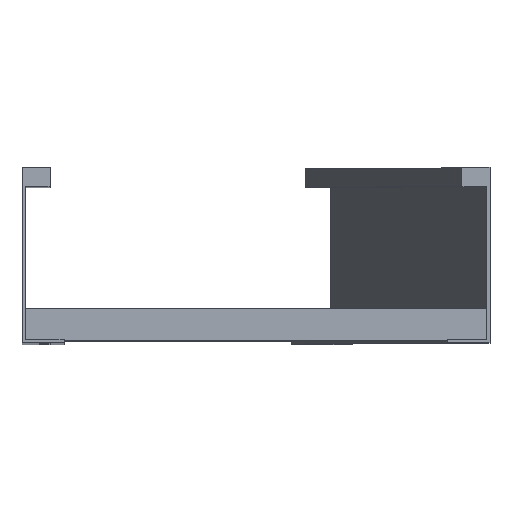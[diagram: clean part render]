
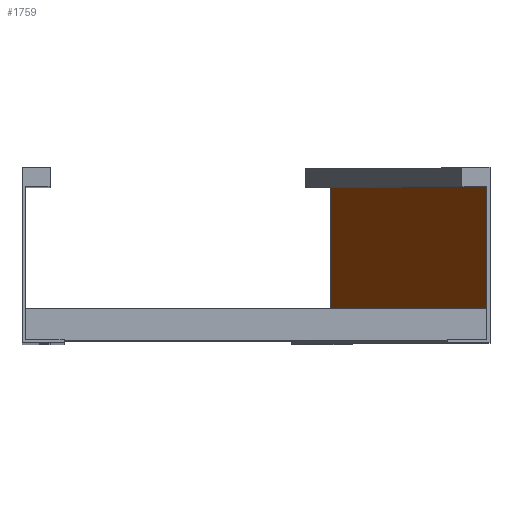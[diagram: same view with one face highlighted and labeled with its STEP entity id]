
A CAD part, top view. The second image highlights one B-rep face of the part: STEP entity #1759.
In plain terms, the highlighted planar face has unit normal (-0.923, 0, 0.385).
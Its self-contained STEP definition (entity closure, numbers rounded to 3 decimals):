
#11 = VERTEX_POINT ( 'NONE', #382 ) ;
#30 = EDGE_CURVE ( 'NONE', #848, #1193, #2414, .T. ) ;
#149 = VECTOR ( 'NONE', #3064, 1000. ) ;
#172 = CARTESIAN_POINT ( 'NONE',  ( -2., 2., -179.6 ) ) ;
#293 = ORIENTED_EDGE ( 'NONE', *, *, #1525, .T. ) ;
#329 = ORIENTED_EDGE ( 'NONE', *, *, #30, .F. ) ;
#351 = CARTESIAN_POINT ( 'NONE',  ( -102., 2., -419.6 ) ) ;
#382 = CARTESIAN_POINT ( 'NONE',  ( -102., 100.5, -419.6 ) ) ;
#501 = LINE ( 'NONE', #2526, #2387 ) ;
#575 = VECTOR ( 'NONE', #1517, 1000. ) ;
#595 = ORIENTED_EDGE ( 'NONE', *, *, #3122, .F. ) ;
#719 = DIRECTION ( 'NONE',  ( 0.923, 0., -0.385 ) ) ;
#793 = CARTESIAN_POINT ( 'NONE',  ( -2., 100.5, -179.6 ) ) ;
#835 = CARTESIAN_POINT ( 'NONE',  ( -1.846, 100.5, -179.231 ) ) ;
#848 = VERTEX_POINT ( 'NONE', #172 ) ;
#1014 = CARTESIAN_POINT ( 'NONE',  ( -1.846, 100.5, -179.231 ) ) ;
#1093 = LINE ( 'NONE', #835, #149 ) ;
#1193 = VERTEX_POINT ( 'NONE', #351 ) ;
#1517 = DIRECTION ( 'NONE',  ( 0., 1., 0. ) ) ;
#1525 = EDGE_CURVE ( 'NONE', #3061, #11, #1093, .T. ) ;
#1582 = CARTESIAN_POINT ( 'NONE',  ( -1.846, 2., -179.231 ) ) ;
#1759 = ADVANCED_FACE ( 'NONE', ( #2106 ), #1806, .F. ) ;
#1806 = PLANE ( 'NONE',  #2681 ) ;
#1911 = EDGE_CURVE ( 'NONE', #848, #3061, #501, .T. ) ;
#2044 = ORIENTED_EDGE ( 'NONE', *, *, #1911, .T. ) ;
#2106 = FACE_OUTER_BOUND ( 'NONE', #3534, .T. ) ;
#2292 = LINE ( 'NONE', #3454, #575 ) ;
#2387 = VECTOR ( 'NONE', #2776, 1000. ) ;
#2414 = LINE ( 'NONE', #1582, #3621 ) ;
#2526 = CARTESIAN_POINT ( 'NONE',  ( -2., 100.5, -179.6 ) ) ;
#2681 = AXIS2_PLACEMENT_3D ( 'NONE', #1014, #719, #3518 ) ;
#2776 = DIRECTION ( 'NONE',  ( 0., 1., 0. ) ) ;
#3061 = VERTEX_POINT ( 'NONE', #793 ) ;
#3064 = DIRECTION ( 'NONE',  ( -0.385, 0., -0.923 ) ) ;
#3122 = EDGE_CURVE ( 'NONE', #1193, #11, #2292, .T. ) ;
#3240 = DIRECTION ( 'NONE',  ( -0.385, 0., -0.923 ) ) ;
#3454 = CARTESIAN_POINT ( 'NONE',  ( -102., 100.5, -419.6 ) ) ;
#3518 = DIRECTION ( 'NONE',  ( -0.385, 0., -0.923 ) ) ;
#3534 = EDGE_LOOP ( 'NONE', ( #329, #2044, #293, #595 ) ) ;
#3621 = VECTOR ( 'NONE', #3240, 1000. ) ;
